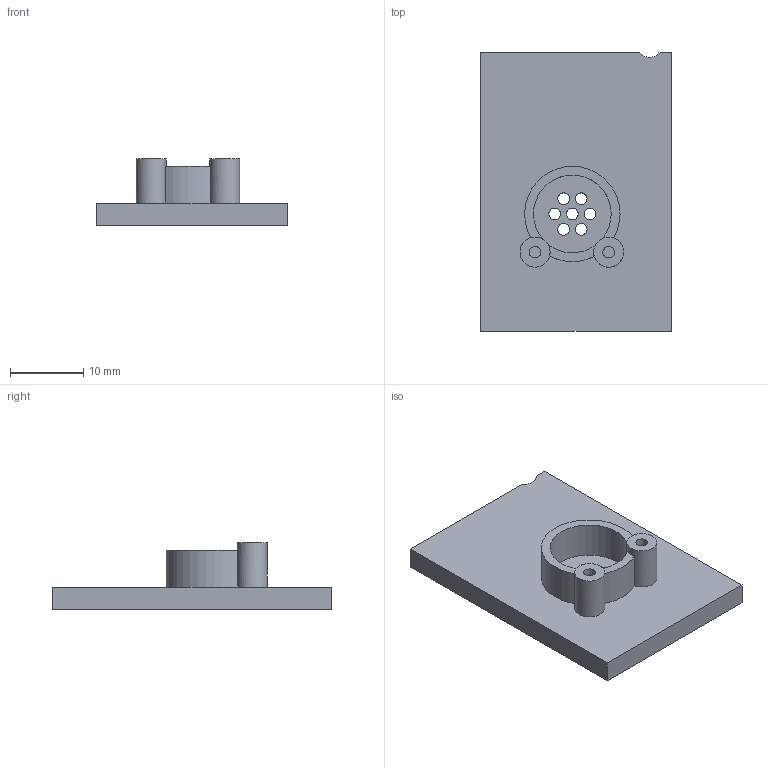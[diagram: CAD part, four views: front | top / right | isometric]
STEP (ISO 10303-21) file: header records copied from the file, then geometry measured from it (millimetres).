
FILE_DESCRIPTION(('Open CASCADE Model'),'2;1');
FILE_NAME('Open CASCADE Shape Model','2026-11-11T15:03:46',('Author'),( 'Open CASCADE'),'Open CASCADE STEP processor 7.8','Open CASCADE 7.8' ,'Unknown');
FILE_SCHEMA(('AUTOMOTIVE_DESIGN { 1 0 10303 214 1 1 1 1 }'));
Length unit declared in the file: millimetre
Products named in the file (1): Open CASCADE STEP translator 7.8 5
Bounding box: 26 x 38 x 9 mm (x, y, z)
Volume: 3240.9 mm3; surface area: 2946.7 mm2
Topology: 1 solids, 1 shells, 36 faces, 87 edges, 58 vertices
Faces by surface type: plane 18, cylinder 18
Full cylindrical faces by diameter (mm): 1.6 x9, 4.1 x2
Entity records: 2341 total; most frequent: CARTESIAN_POINT 542, DIRECTION 352, ORIENTED_EDGE 174, PCURVE 174, DEFINITIONAL_REPRESENTATION 174, LINE 165, VECTOR 165, EDGE_CURVE 87
